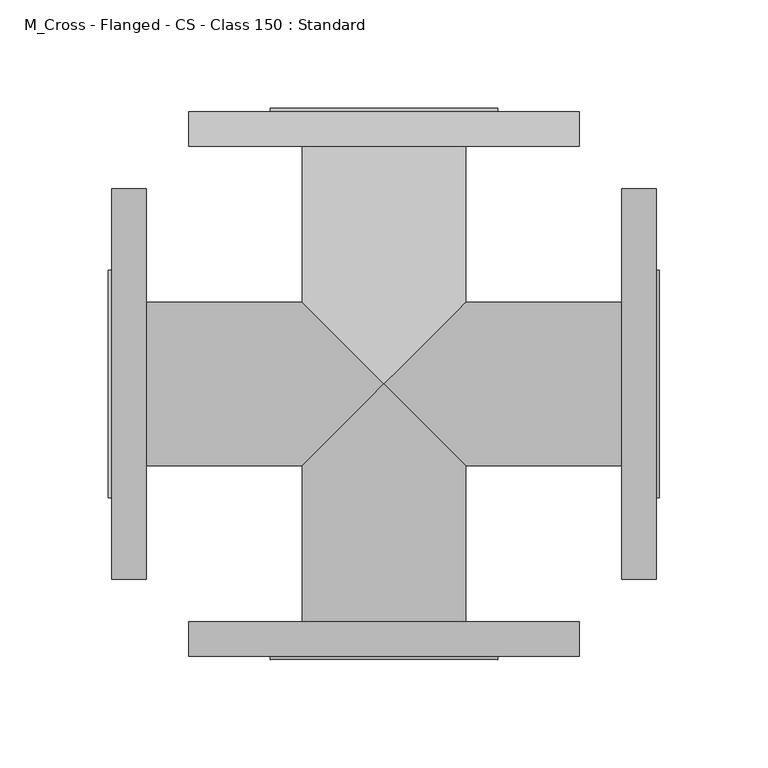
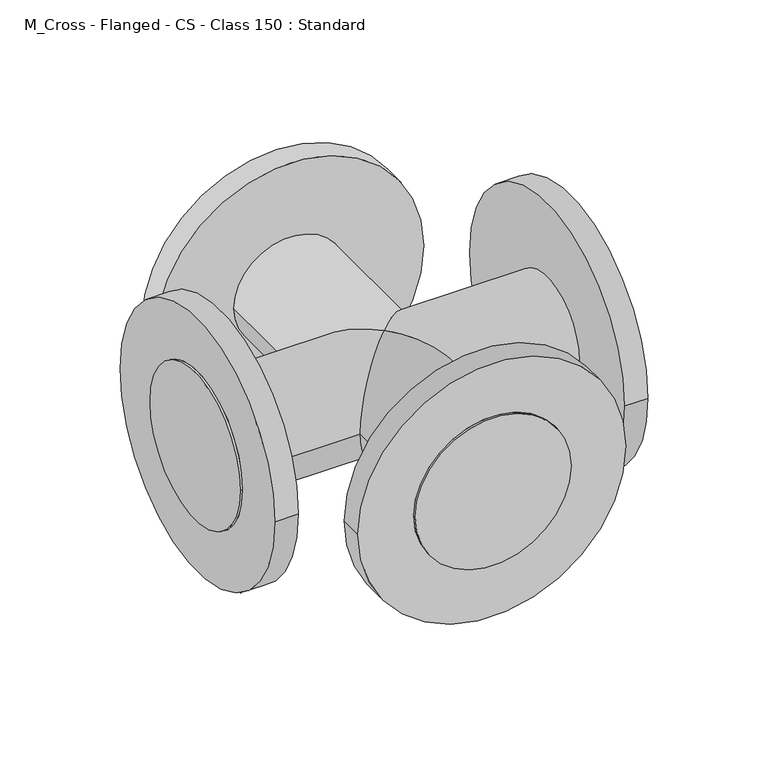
"""IFC4 building model written with IfcOpenShell, lengths in millimetres: pipe fitting geometry, M_Cross - Flanged - CS - Class 150 : Standard."""

from ifc_helpers import new_model, si_unit, frame, origin, place, context, project, spatial, circle_curve, ellipse_curve, source, transform, mapped, element, save
from ifc_brep_helpers import plane_surface, cylinder_surface, advanced_brep


def m_cross_flanged_cs_class_150_standard_72237f6b(model_context):
    return source(origin(), model_context, "Body", "AdvancedBrep", [
        advanced_brep(
        [(90.0, 109.5125, 0.0), (-90.0, 109.5125, 0.0), (-37.6, 109.5125, 0.0), (37.6, 109.5125, 0.0), (90.0, 125.4125, 0.0), (-90.0, 125.4125, 0.0), (52.4, 125.4125, 0.0), (-52.4, 125.4125, 0.0), (-37.6, 37.6, 0.0), (0.0, 0.0, 37.6), (37.6, 37.6, 0.0), (0.0, 0.0, -37.6), (52.4, 127.0, 0.0), (-52.4, 127.0, 0.0), (-37.6, -109.5125, 0.0), (37.6, -109.5125, 0.0), (37.6, -37.6, 0.0), (-37.6, -37.6, 0.0), (-90.0, -109.5125, 0.0), (90.0, -109.5125, 0.0), (-90.0, -125.4125, 0.0), (90.0, -125.4125, 0.0), (-52.4, -125.4125, 0.0), (52.4, -125.4125, 0.0), (-52.4, -127.0, 0.0), (52.4, -127.0, 0.0), (109.5125, 37.6, 0.0), (109.5125, -37.6, 0.0), (-109.5125, 37.6, 0.0), (-109.5125, -37.6, 0.0), (-125.4125, -90.0, 0.0), (-125.4125, 90.0, 0.0), (-125.4125, 52.4, 0.0), (-125.4125, -52.4, 0.0), (-109.5125, -90.0, 0.0), (-109.5125, 90.0, 0.0), (109.5125, -90.0, 0.0), (109.5125, 90.0, 0.0), (125.4125, -90.0, 0.0), (125.4125, 90.0, 0.0), (125.4125, -52.4, 0.0), (125.4125, 52.4, 0.0), (127.0, -52.4, 0.0), (127.0, 52.4, 0.0), (-127.0, 52.4, 0.0), (-127.0, -52.4, 0.0)],
        [
            (0, 1, circle_curve(frame((0.0, 109.5125, 0.0), z_axis=(0.0, -1.0, 0.0), x_axis=(-1.0, 0.0, 0.0)), 90.0)),
            (1, 0, circle_curve(frame((0.0, 109.5125, 0.0), z_axis=(0.0, -1.0, 0.0), x_axis=(-1.0, 0.0, 0.0)), 90.0)),
            (2, 3, circle_curve(frame((0.0, 109.5125, 0.0), z_axis=(0.0, 1.0, 0.0), x_axis=(-1.0, 0.0, 0.0)), 37.6)),
            (3, 2, circle_curve(frame((0.0, 109.5125, 0.0), z_axis=(0.0, 1.0, 0.0), x_axis=(-1.0, 0.0, 0.0)), 37.6)),
            (4, 5, circle_curve(frame((0.0, 125.4125, 0.0), z_axis=(0.0, 1.0, 0.0), x_axis=(-1.0, 0.0, 0.0)), 90.0)),
            (5, 4, circle_curve(frame((0.0, 125.4125, 0.0), z_axis=(0.0, 1.0, 0.0), x_axis=(-1.0, 0.0, 0.0)), 90.0)),
            (6, 7, circle_curve(frame((0.0, 125.4125, 0.0), z_axis=(0.0, -1.0, 0.0), x_axis=(-1.0, 0.0, 0.0)), 52.4)),
            (7, 6, circle_curve(frame((0.0, 125.4125, 0.0), z_axis=(0.0, -1.0, 0.0), x_axis=(-1.0, 0.0, 0.0)), 52.4)),
            (0, 4),
            (5, 1),
            (2, 8),
            (8, 9, ellipse_curve(frame((0.0, 0.0, 0.0), z_axis=(0.707106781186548, 0.7071067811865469, 0.0), x_axis=(0.7071067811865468, -0.7071067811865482, 0.0)), 53.1744299, 37.6)),
            (9, 10, ellipse_curve(frame((0.0, 0.0, 0.0), z_axis=(-0.7071067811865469, 0.7071067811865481, 0.0), x_axis=(-0.7071067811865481, -0.7071067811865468, 0.0)), 53.1744299, 37.6)),
            (10, 3),
            (10, 11, ellipse_curve(frame((0.0, 0.0, 0.0), z_axis=(-0.7071067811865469, 0.7071067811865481, 0.0), x_axis=(-0.7071067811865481, -0.7071067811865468, 0.0)), 53.1744299, 37.6)),
            (11, 8, ellipse_curve(frame((0.0, 0.0, 0.0), z_axis=(0.707106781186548, 0.7071067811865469, 0.0), x_axis=(0.7071067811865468, -0.7071067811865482, 0.0)), 53.1744299, 37.6)),
            (12, 13, circle_curve(frame((0.0, 127.0, 0.0), z_axis=(0.0, 1.0, 0.0), x_axis=(-1.0, 0.0, 0.0)), 52.4)),
            (13, 12, circle_curve(frame((0.0, 127.0, 0.0), z_axis=(0.0, 1.0, 0.0), x_axis=(-1.0, 0.0, 0.0)), 52.4)),
            (13, 7),
            (6, 12),
            (14, 15, circle_curve(frame((0.0, -109.5125, 0.0), z_axis=(0.0, 1.0, 0.0), x_axis=(1.0, 0.0, 0.0)), 37.6)),
            (15, 16),
            (16, 9, ellipse_curve(frame((0.0, 0.0, 0.0), z_axis=(-0.7071067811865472, -0.7071067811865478, 0.0), x_axis=(-0.7071067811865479, 0.7071067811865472, 0.0)), 53.1744299, 37.6)),
            (9, 17, ellipse_curve(frame((0.0, 0.0, 0.0), z_axis=(0.7071067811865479, -0.7071067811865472, 0.0), x_axis=(0.7071067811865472, 0.7071067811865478, 0.0)), 53.1744299, 37.6)),
            (17, 14),
            (15, 14, circle_curve(frame((0.0, -109.5125, 0.0), z_axis=(0.0, 1.0, 0.0), x_axis=(1.0, 0.0, 0.0)), 37.6)),
            (17, 11, ellipse_curve(frame((0.0, 0.0, 0.0), z_axis=(0.7071067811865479, -0.7071067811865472, 0.0), x_axis=(0.7071067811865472, 0.7071067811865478, 0.0)), 53.1744299, 37.6)),
            (11, 16, ellipse_curve(frame((0.0, 0.0, 0.0), z_axis=(-0.7071067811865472, -0.7071067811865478, 0.0), x_axis=(-0.7071067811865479, 0.7071067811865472, 0.0)), 53.1744299, 37.6)),
            (18, 19, circle_curve(frame((0.0, -109.5125, 0.0), z_axis=(0.0, 1.0, 0.0), x_axis=(1.0, 0.0, 0.0)), 90.0)),
            (19, 18, circle_curve(frame((0.0, -109.5125, 0.0), z_axis=(0.0, 1.0, 0.0), x_axis=(1.0, 0.0, 0.0)), 90.0)),
            (20, 21, circle_curve(frame((0.0, -125.4125, 0.0), z_axis=(0.0, -1.0, 0.0), x_axis=(1.0, 0.0, 0.0)), 90.0)),
            (21, 20, circle_curve(frame((0.0, -125.4125, 0.0), z_axis=(0.0, -1.0, 0.0), x_axis=(1.0, 0.0, 0.0)), 90.0)),
            (22, 23, circle_curve(frame((0.0, -125.4125, 0.0), z_axis=(0.0, 1.0, 0.0), x_axis=(1.0, 0.0, 0.0)), 52.4)),
            (23, 22, circle_curve(frame((0.0, -125.4125, 0.0), z_axis=(0.0, 1.0, 0.0), x_axis=(1.0, 0.0, 0.0)), 52.4)),
            (18, 20),
            (21, 19),
            (24, 25, circle_curve(frame((0.0, -127.0, 0.0), z_axis=(0.0, -1.0, 0.0), x_axis=(1.0, 0.0, 0.0)), 52.4)),
            (25, 24, circle_curve(frame((0.0, -127.0, 0.0), z_axis=(0.0, -1.0, 0.0), x_axis=(1.0, 0.0, 0.0)), 52.4)),
            (25, 23),
            (22, 24),
            (26, 10),
            (16, 27),
            (27, 26, circle_curve(frame((109.5125, 0.0, 0.0), z_axis=(-1.0, 0.0, 0.0), x_axis=(0.0, 1.0, 0.0)), 37.6)),
            (26, 27, circle_curve(frame((109.5125, 0.0, 0.0), z_axis=(-1.0, 0.0, 0.0), x_axis=(0.0, 1.0, 0.0)), 37.6)),
            (8, 28),
            (28, 29, circle_curve(frame((-109.5125, 0.0, 0.0), z_axis=(1.0, 0.0, 0.0), x_axis=(0.0, 1.0, 0.0)), 37.6)),
            (29, 17),
            (29, 28, circle_curve(frame((-109.5125, 0.0, 0.0), z_axis=(1.0, 0.0, 0.0), x_axis=(0.0, 1.0, 0.0)), 37.6)),
            (30, 31, circle_curve(frame((-125.4125, 0.0, 0.0), z_axis=(-1.0, 0.0, 0.0), x_axis=(0.0, 1.0, 0.0)), 90.0)),
            (31, 30, circle_curve(frame((-125.4125, 0.0, 0.0), z_axis=(-1.0, 0.0, 0.0), x_axis=(0.0, 1.0, 0.0)), 90.0)),
            (32, 33, circle_curve(frame((-125.4125, 0.0, 0.0), z_axis=(1.0, 0.0, 0.0), x_axis=(0.0, -1.0, 0.0)), 52.4)),
            (33, 32, circle_curve(frame((-125.4125, 0.0, 0.0), z_axis=(1.0, 0.0, 0.0), x_axis=(0.0, -1.0, 0.0)), 52.4)),
            (34, 35, circle_curve(frame((-109.5125, 0.0, 0.0), z_axis=(1.0, 0.0, 0.0), x_axis=(0.0, 1.0, 0.0)), 90.0)),
            (35, 34, circle_curve(frame((-109.5125, 0.0, 0.0), z_axis=(1.0, 0.0, 0.0), x_axis=(0.0, 1.0, 0.0)), 90.0)),
            (30, 34),
            (35, 31),
            (36, 37, circle_curve(frame((109.5125, 0.0, 0.0), z_axis=(-1.0, 0.0, 0.0), x_axis=(0.0, 1.0, 0.0)), 90.0)),
            (37, 36, circle_curve(frame((109.5125, 0.0, 0.0), z_axis=(-1.0, 0.0, 0.0), x_axis=(0.0, 1.0, 0.0)), 90.0)),
            (38, 39, circle_curve(frame((125.4125, 0.0, 0.0), z_axis=(1.0, 0.0, 0.0), x_axis=(0.0, 1.0, 0.0)), 90.0)),
            (39, 38, circle_curve(frame((125.4125, 0.0, 0.0), z_axis=(1.0, 0.0, 0.0), x_axis=(0.0, 1.0, 0.0)), 90.0)),
            (40, 41, circle_curve(frame((125.4125, 0.0, 0.0), z_axis=(-1.0, 0.0, 0.0), x_axis=(0.0, 1.0, 0.0)), 52.4)),
            (41, 40, circle_curve(frame((125.4125, 0.0, 0.0), z_axis=(-1.0, 0.0, 0.0), x_axis=(0.0, 1.0, 0.0)), 52.4)),
            (36, 38),
            (39, 37),
            (42, 43, circle_curve(frame((127.0, 0.0, 0.0), z_axis=(1.0, 0.0, 0.0), x_axis=(0.0, 1.0, 0.0)), 52.4)),
            (43, 42, circle_curve(frame((127.0, 0.0, 0.0), z_axis=(1.0, 0.0, 0.0), x_axis=(0.0, 1.0, 0.0)), 52.4)),
            (43, 41),
            (40, 42),
            (44, 45, circle_curve(frame((-127.0, 0.0, 0.0), z_axis=(-1.0, 0.0, 0.0), x_axis=(0.0, -1.0, 0.0)), 52.4)),
            (45, 44, circle_curve(frame((-127.0, 0.0, 0.0), z_axis=(-1.0, 0.0, 0.0), x_axis=(0.0, -1.0, 0.0)), 52.4)),
            (45, 33),
            (32, 44),
        ],
        [
            plane_surface(frame((0.0, 109.5125, 0.0), z_axis=(0.0, -1.0, 0.0), x_axis=(0.0, 0.0, 1.0))),
            plane_surface(frame((0.0, 125.4125, 0.0), z_axis=(0.0, 1.0, 0.0), x_axis=(0.0, 0.0, 1.0))),
            cylinder_surface(frame((0.0, 109.5125, 0.0), z_axis=(0.0, -1.0, 0.0), x_axis=(-1.0, 0.0, 0.0)), 90.0),
            cylinder_surface(frame((0.0, 0.0, 0.0), z_axis=(0.0, -1.0, 0.0), x_axis=(-1.0, 0.0, 0.0)), 37.6),
            plane_surface(frame((0.0, 127.0, 0.0), z_axis=(0.0, 1.0, 0.0), x_axis=(0.0, 0.0, 1.0))),
            cylinder_surface(frame((0.0, 125.4125, 0.0), z_axis=(0.0, -1.0, 0.0), x_axis=(-1.0, 0.0, 0.0)), 52.4),
            cylinder_surface(frame((0.0, 0.0, 0.0), z_axis=(0.0, 1.0, 0.0), x_axis=(1.0, 0.0, 0.0)), 37.6),
            plane_surface(frame((0.0, -109.5125, 0.0), z_axis=(0.0, 1.0, 0.0), x_axis=(0.0, 0.0, 1.0))),
            plane_surface(frame((0.0, -125.4125, 0.0), z_axis=(0.0, -1.0, 0.0), x_axis=(0.0, 0.0, 1.0))),
            cylinder_surface(frame((0.0, -109.5125, 0.0), z_axis=(0.0, 1.0, 0.0), x_axis=(1.0, 0.0, 0.0)), 90.0),
            plane_surface(frame((0.0, -127.0, 0.0), z_axis=(0.0, -1.0, 0.0), x_axis=(0.0, 0.0, 1.0))),
            cylinder_surface(frame((0.0, -125.4125, 0.0), z_axis=(0.0, 1.0, 0.0), x_axis=(1.0, 0.0, 0.0)), 52.4),
            cylinder_surface(frame((0.0, 0.0, 0.0), z_axis=(-1.0, 0.0, 0.0), x_axis=(0.0, 1.0, 0.0)), 37.6),
            cylinder_surface(frame((-109.5125, 0.0, 0.0), z_axis=(-1.0, 0.0, 0.0), x_axis=(0.0, 1.0, 0.0)), 37.6),
            plane_surface(frame((-125.4125, 0.0, 0.0), z_axis=(-1.0, 0.0, 0.0), x_axis=(0.0, 0.0, 1.0))),
            plane_surface(frame((-109.5125, 0.0, 0.0), z_axis=(1.0, 0.0, 0.0), x_axis=(0.0, 0.0, 1.0))),
            cylinder_surface(frame((-125.4125, 0.0, 0.0), z_axis=(-1.0, 0.0, 0.0), x_axis=(0.0, 1.0, 0.0)), 90.0),
            plane_surface(frame((109.5125, 0.0, 0.0), z_axis=(-1.0, 0.0, 0.0), x_axis=(0.0, 0.0, 1.0))),
            plane_surface(frame((125.4125, 0.0, 0.0), z_axis=(1.0, 0.0, 0.0), x_axis=(0.0, 0.0, 1.0))),
            cylinder_surface(frame((109.5125, 0.0, 0.0), z_axis=(-1.0, 0.0, 0.0), x_axis=(0.0, 1.0, 0.0)), 90.0),
            plane_surface(frame((127.0, 0.0, 0.0), z_axis=(1.0, 0.0, 0.0), x_axis=(0.0, 0.0, 1.0))),
            cylinder_surface(frame((125.4125, 0.0, 0.0), z_axis=(-1.0, 0.0, 0.0), x_axis=(0.0, 1.0, 0.0)), 52.4),
            plane_surface(frame((-127.0, 0.0, 0.0), z_axis=(-1.0, 0.0, 0.0), x_axis=(0.0, 0.0, 1.0))),
            cylinder_surface(frame((-125.4125, 0.0, 0.0), z_axis=(1.0, 0.0, 0.0), x_axis=(0.0, -1.0, 0.0)), 52.4),
        ],
        [
            (0, [[1, 2], [3, 4]]),
            (1, [[5, 6], [7, 8]]),
            (2, [[-1, 9, -6, 10]]),
            (2, [[-2, -10, -5, -9]]),
            (3, [[-3, 11, 12, 13, 14]]),
            (3, [[-4, -14, 15, 16, -11]]),
            (4, [[17, 18]]),
            (5, [[-18, 19, -7, 20]]),
            (5, [[-17, -20, -8, -19]]),
            (6, [[21, 22, 23, 24, 25]]),
            (6, [[26, -25, 27, 28, -22]]),
            (7, [[29, 30], [-21, -26]]),
            (8, [[31, 32], [33, 34]]),
            (9, [[-29, 35, -32, 36]]),
            (9, [[-30, -36, -31, -35]]),
            (10, [[37, 38]]),
            (11, [[-38, 39, -33, 40]]),
            (11, [[-37, -40, -34, -39]]),
            (12, [[41, -13, -23, 42, 43]]),
            (12, [[-41, 44, -42, -28, -15]]),
            (13, [[45, 46, 47, -24, -12]]),
            (13, [[-45, -16, -27, -47, 48]]),
            (14, [[49, 50], [51, 52]]),
            (15, [[53, 54], [-46, -48]]),
            (16, [[-49, 55, -54, 56]]),
            (16, [[-50, -56, -53, -55]]),
            (17, [[57, 58], [-43, -44]]),
            (18, [[59, 60], [61, 62]]),
            (19, [[-57, 63, -60, 64]]),
            (19, [[-58, -64, -59, -63]]),
            (20, [[65, 66]]),
            (21, [[-66, 67, -61, 68]]),
            (21, [[-65, -68, -62, -67]]),
            (22, [[69, 70]]),
            (23, [[-70, 71, -51, 72]]),
            (23, [[-69, -72, -52, -71]]),
        ],
    ),
    ])


if __name__ == "__main__":
    model = new_model("IFC4")
    model_context = context("Model", 3, world=origin())
    ifc_project = project(units=[si_unit("LENGTHUNIT", "METRE", prefix="MILLI")], contexts=[model_context])
    site = spatial("IfcSite", under=ifc_project)
    building = spatial("IfcBuilding", under=site)
    placement = place(None, origin())
    m_cross_flanged_cs_class_150_standard_shape = m_cross_flanged_cs_class_150_standard_72237f6b(model_context)
    element("IfcPipeFitting", 1, ObjectType="M_Cross - Flanged - CS - Class 150 : Standard", at=placement, inside=building, context=model_context, shape_type="MappedRepresentation", body=[
        mapped(m_cross_flanged_cs_class_150_standard_shape, transform((0.0, 0.0, 0.0), x_axis=(1.0, 0.0, 0.0), y_axis=(0.0, 1.0, 0.0), z_axis=(0.0, 0.0, 1.0))),
    ])
    save(model, "model.ifc")
